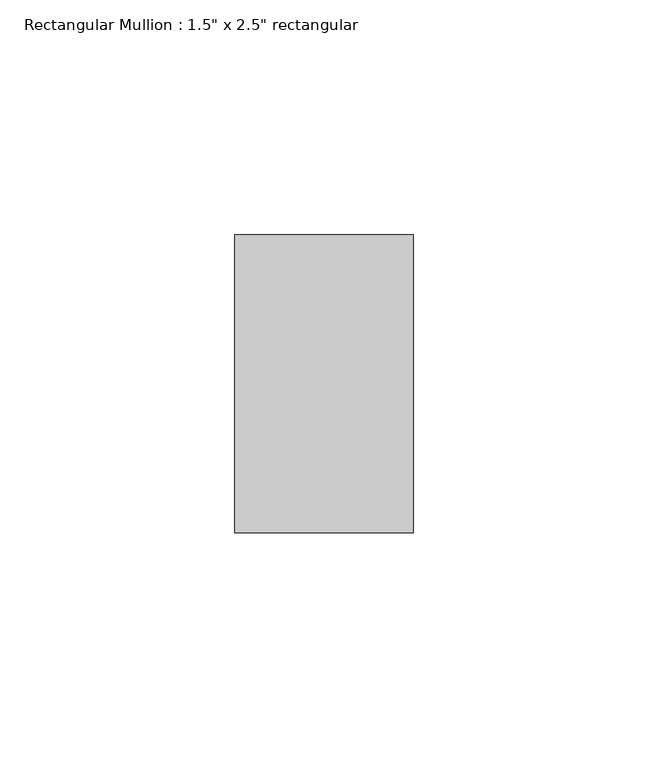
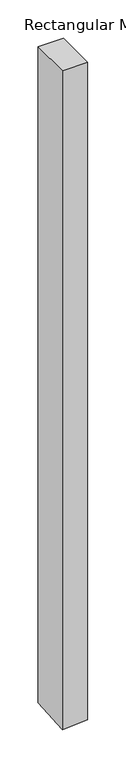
"""IFC4 building model written with IfcOpenShell, lengths in millimetres: member geometry."""

from ifc_helpers import new_model, si_unit, origin, place, context, project, spatial, faceted_brep, source, transform, mapped, element, save


def member_643fa319(model_context):
    return source(origin(), model_context, "Body", "Brep", [
        faceted_brep([(0.0, 31.75, 0.0), (-38.1, 31.75, 0.0), (-38.1, -31.75, 0.0), (0.0, -31.75, 0.0), (0.0, 31.75, -1043.7186387), (-38.1, 31.75, -1046.4903161), (-38.1, -31.75, -1051.134371), (0.0, -31.75, -1048.3626936)], [[[0, 1, 2, 3]], [[1, 0, 4, 5]], [[2, 1, 5, 6]], [[3, 2, 6, 7]], [[0, 3, 7, 4]], [[4, 7, 6, 5]]]),
    ])


if __name__ == "__main__":
    model = new_model("IFC4")
    model_context = context("Model", 3, world=origin())
    ifc_project = project(units=[si_unit("LENGTHUNIT", "METRE", prefix="MILLI")], contexts=[model_context])
    site = spatial("IfcSite", under=ifc_project)
    building = spatial("IfcBuilding", under=site)
    placement = place(None, origin())
    member_shape = member_643fa319(model_context)
    element("IfcMember", 1, ObjectType="Rectangular Mullion : 1.5\" x 2.5\" rectangular", at=placement, inside=building, context=model_context, shape_type="MappedRepresentation", body=[
        mapped(member_shape, transform((0.0, 0.0, 0.0), x_axis=(1.0, 0.0, 0.0), y_axis=(0.0, 1.0, 0.0), z_axis=(0.0, 0.0, 1.0))),
    ])
    save(model, "model.ifc")
